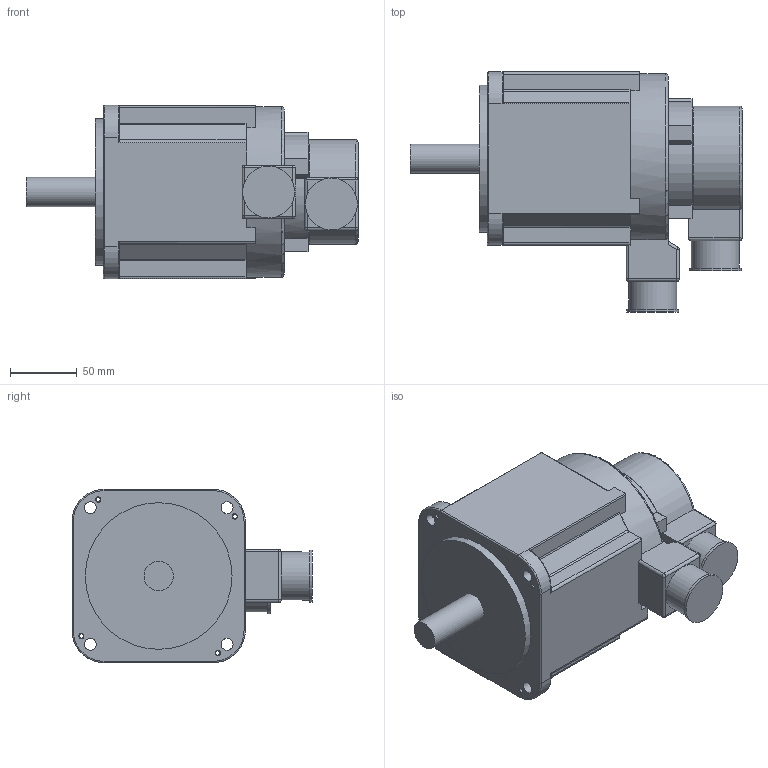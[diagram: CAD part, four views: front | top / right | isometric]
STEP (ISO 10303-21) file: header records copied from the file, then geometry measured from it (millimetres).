
FILE_DESCRIPTION(/* description */ (''),/* implementation_level */ '2;1');
FILE_NAME(/* name */ '130GSL11515.stp',/* time_stamp */ '2019-11-22T13:54:01+08:00',/* author */ (''),/* organization */ (''),/* preprocessor_version */ 'ST-DEVELOPER v16',/* originating_system */ 'SIEMENS PLM Software NX 10.0',/* authorisation */ '');
FILE_SCHEMA (('CONFIG_CONTROL_DESIGN'));
Length unit declared in the file: millimetre
Products named in the file (1): 130GSL11515
Bounding box: 249 x 180 x 130 mm (x, y, z)
Volume: 2461015.3 mm3; surface area: 132328.3 mm2
Topology: 1 solids, 1 shells, 232 faces, 568 edges, 332 vertices
Faces by surface type: cylinder 104, plane 74, torus 31, sphere 11, cone 8, bspline 4
Full cylindrical faces by diameter (mm): 3.3 x4, 9 x4, 22 x1, 36 x2, 39 x2, 110 x1
Entity records: 7194 total; most frequent: CARTESIAN_POINT 1738, DIRECTION 1183, ORIENTED_EDGE 1064, EDGE_CURVE 532, AXIS2_PLACEMENT_3D 465, VERTEX_POINT 329, EDGE_LOOP 275, LINE 253
